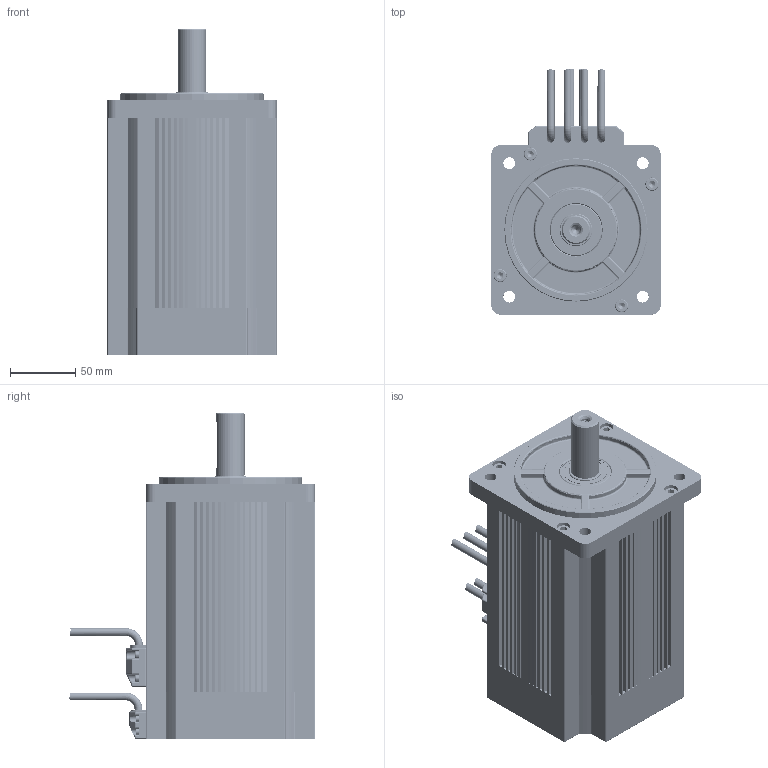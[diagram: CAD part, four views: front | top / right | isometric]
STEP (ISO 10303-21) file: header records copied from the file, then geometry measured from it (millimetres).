
FILE_DESCRIPTION (( 'STEP AP203' ), '1' );
FILE_NAME ('130L80-B-竘盄碟-4盄.STEP', '2022-07-30T08:14:20', ( 'muse' ), ( 'Organization' ), 'SwSTEP 2.0', 'SolidWorks 2018', '' );
FILE_SCHEMA (( 'CONFIG_CONTROL_DESIGN' ));
Products named in the file (1): 130L80-B-竘盄碟-4盄
Bounding box: 130 x 188.82 x 251 mm (x, y, z)
Volume: 989201.5 mm3; surface area: 402035.3 mm2
Topology: 32 solids, 32 shells, 4676 faces, 10245 edges, 5634 vertices
Faces by surface type: cone 1947, cylinder 1618, plane 694, bspline 180, torus 179, sphere 58
Entity records: 130711 total; most frequent: CARTESIAN_POINT 27907, DIRECTION 23401, ORIENTED_EDGE 20306, EDGE_CURVE 10153, AXIS2_PLACEMENT_3D 9232, VERTEX_POINT 5628, VECTOR 4937, LINE 4937
